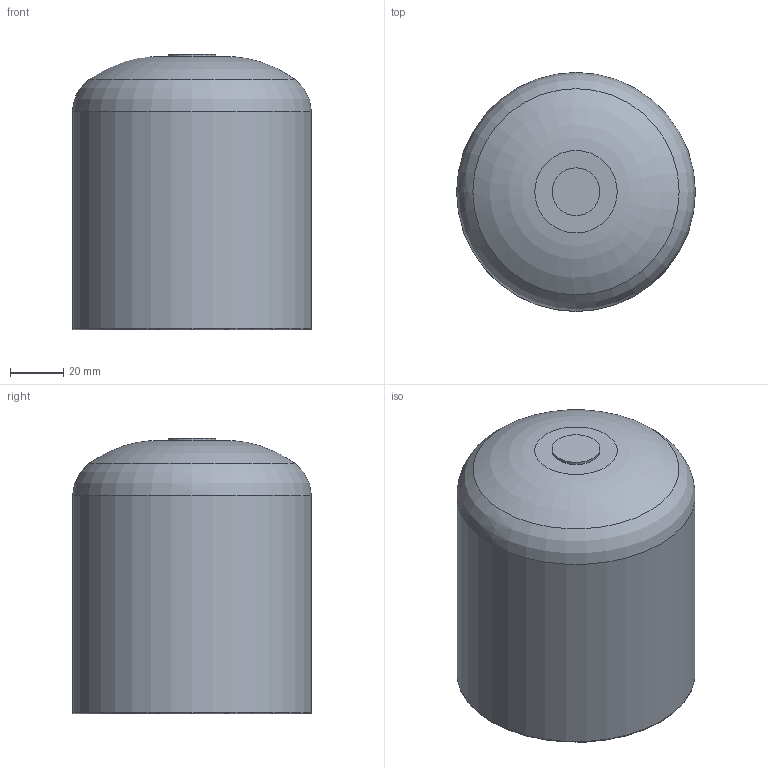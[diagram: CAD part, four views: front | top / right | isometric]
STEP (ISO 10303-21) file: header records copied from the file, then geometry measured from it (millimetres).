
FILE_DESCRIPTION(/* description */ ('Unknown'),/* implementation_level */ '2;1');
FILE_NAME(/* name */ 'CAP090H',/* time_stamp */ '2022-04-01T11:53:58+02:00',/* author */ ('Unknown'),/* organization */ ('Unknown'),/* preprocessor_version */ 'ST-DEVELOPER v18.1',/* originating_system */ 'Solid Edge',/* authorisation */ 'Unknown');
FILE_SCHEMA (('AUTOMOTIVE_DESIGN {1 0 10303 214 3 1 1}'));
Length unit declared in the file: millimetre
Products named in the file (1): CAP090H
Bounding box: 90 x 90 x 104 mm (x, y, z)
Volume: 339533.1 mm3; surface area: 56816.2 mm2
Topology: 1 solids, 1 shells, 155 faces, 358 edges, 200 vertices
Faces by surface type: bspline 108, torus 27, plane 9, sphere 7, cylinder 3, cone 1
Full cylindrical faces by diameter (mm): 18 x1, 65.4 x1, 90 x1
Entity records: 5574 total; most frequent: CARTESIAN_POINT 2874, ORIENTED_EDGE 678, DIRECTION 390, EDGE_CURVE 339, VERTEX_POINT 195, AXIS2_PLACEMENT_3D 195, B_SPLINE_CURVE_WITH_KNOTS 192, EDGE_LOOP 164
